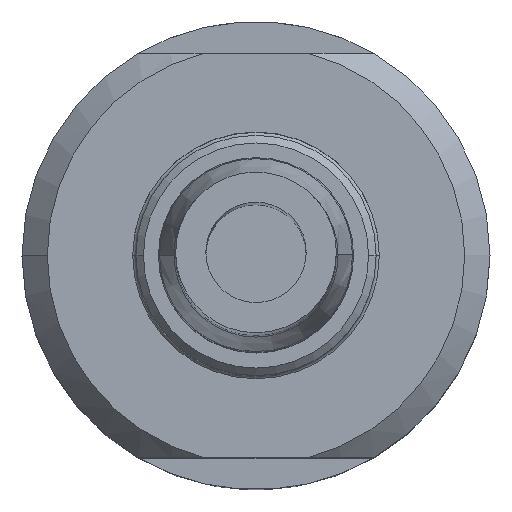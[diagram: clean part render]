
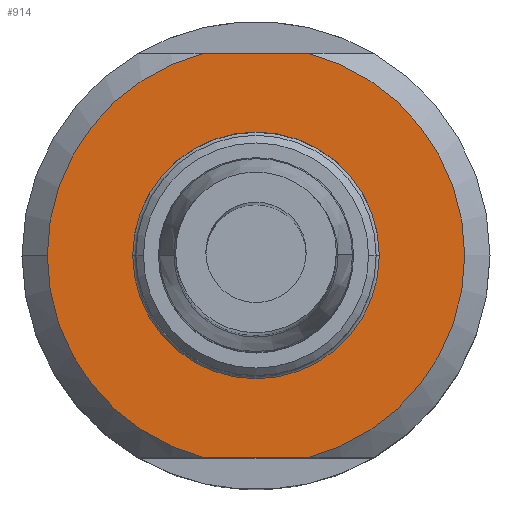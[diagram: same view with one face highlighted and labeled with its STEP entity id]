
A CAD part, top view. The second image highlights one B-rep face of the part: STEP entity #914.
In plain terms, the highlighted planar face has unit normal (0, 0, 1).
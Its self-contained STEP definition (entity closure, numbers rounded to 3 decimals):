
#59 = DIRECTION ( 'NONE',  ( -1., 0., 0. ) ) ;
#72 = LINE ( 'NONE', #1087, #2072 ) ;
#161 = CIRCLE ( 'NONE', #1657, 4.875 ) ;
#210 = DIRECTION ( 'NONE',  ( 0., 0., 1. ) ) ;
#270 = VERTEX_POINT ( 'NONE', #2716 ) ;
#350 = DIRECTION ( 'NONE',  ( 0., 0., -1. ) ) ;
#450 = CARTESIAN_POINT ( 'NONE',  ( -4.875, 0., 20.3 ) ) ;
#475 = EDGE_LOOP ( 'NONE', ( #3002, #674 ) ) ;
#502 = CARTESIAN_POINT ( 'NONE',  ( 0., 0., 20.3 ) ) ;
#652 = DIRECTION ( 'NONE',  ( -1., 0., 0. ) ) ;
#655 = CARTESIAN_POINT ( 'NONE',  ( 0., 8.25, 20.3 ) ) ;
#674 = ORIENTED_EDGE ( 'NONE', *, *, #1118, .T. ) ;
#792 = DIRECTION ( 'NONE',  ( -1., 0., 0. ) ) ;
#914 = ADVANCED_FACE ( 'NONE', ( #1005, #4221 ), #3478, .T. ) ;
#985 = EDGE_CURVE ( 'NONE', #1441, #3596, #3257, .T. ) ;
#1005 = FACE_BOUND ( 'NONE', #475, .T. ) ;
#1052 = CARTESIAN_POINT ( 'NONE',  ( 0., 0., 20.3 ) ) ;
#1087 = CARTESIAN_POINT ( 'NONE',  ( -23.067, -8., 20.3 ) ) ;
#1118 = EDGE_CURVE ( 'NONE', #1518, #4179, #161, .T. ) ;
#1170 = AXIS2_PLACEMENT_3D ( 'NONE', #1535, #4410, #59 ) ;
#1182 = AXIS2_PLACEMENT_3D ( 'NONE', #1052, #350, #2128 ) ;
#1210 = DIRECTION ( 'NONE',  ( -1., 0., 0. ) ) ;
#1441 = VERTEX_POINT ( 'NONE', #3595 ) ;
#1500 = LINE ( 'NONE', #3038, #3904 ) ;
#1518 = VERTEX_POINT ( 'NONE', #2487 ) ;
#1535 = CARTESIAN_POINT ( 'NONE',  ( 0., 0., 20.3 ) ) ;
#1657 = AXIS2_PLACEMENT_3D ( 'NONE', #4500, #3735, #1210 ) ;
#1740 = DIRECTION ( 'NONE',  ( 0., 0., -1. ) ) ;
#1743 = DIRECTION ( 'NONE',  ( 1., 0., 0. ) ) ;
#2072 = VECTOR ( 'NONE', #3346, 1000. ) ;
#2128 = DIRECTION ( 'NONE',  ( -1., 0., 0. ) ) ;
#2341 = EDGE_CURVE ( 'NONE', #2598, #270, #72, .T. ) ;
#2487 = CARTESIAN_POINT ( 'NONE',  ( 4.875, 0., 20.3 ) ) ;
#2494 = VERTEX_POINT ( 'NONE', #3291 ) ;
#2598 = VERTEX_POINT ( 'NONE', #3341 ) ;
#2705 = CIRCLE ( 'NONE', #3641, 8.25 ) ;
#2716 = CARTESIAN_POINT ( 'NONE',  ( 2.016, -8., 20.3 ) ) ;
#2766 = ORIENTED_EDGE ( 'NONE', *, *, #3675, .F. ) ;
#2908 = CIRCLE ( 'NONE', #2980, 4.875 ) ;
#2920 = CARTESIAN_POINT ( 'NONE',  ( -2.016, 8., 20.3 ) ) ;
#2980 = AXIS2_PLACEMENT_3D ( 'NONE', #502, #3714, #4139 ) ;
#3002 = ORIENTED_EDGE ( 'NONE', *, *, #4459, .T. ) ;
#3038 = CARTESIAN_POINT ( 'NONE',  ( -23.067, 8., 20.3 ) ) ;
#3041 = ORIENTED_EDGE ( 'NONE', *, *, #985, .F. ) ;
#3212 = ORIENTED_EDGE ( 'NONE', *, *, #3323, .T. ) ;
#3249 = CIRCLE ( 'NONE', #1170, 8.25 ) ;
#3257 = CIRCLE ( 'NONE', #1182, 8.25 ) ;
#3291 = CARTESIAN_POINT ( 'NONE',  ( 2.016, 8., 20.3 ) ) ;
#3323 = EDGE_CURVE ( 'NONE', #2494, #3596, #1500, .T. ) ;
#3341 = CARTESIAN_POINT ( 'NONE',  ( -2.016, -8., 20.3 ) ) ;
#3346 = DIRECTION ( 'NONE',  ( 1., 0., 0. ) ) ;
#3478 = PLANE ( 'NONE',  #3489 ) ;
#3489 = AXIS2_PLACEMENT_3D ( 'NONE', #655, #210, #1743 ) ;
#3534 = EDGE_CURVE ( 'NONE', #2598, #1441, #2705, .T. ) ;
#3595 = CARTESIAN_POINT ( 'NONE',  ( -8.25, 0., 20.3 ) ) ;
#3596 = VERTEX_POINT ( 'NONE', #2920 ) ;
#3635 = EDGE_LOOP ( 'NONE', ( #4634, #3991, #2766, #3212, #3041 ) ) ;
#3641 = AXIS2_PLACEMENT_3D ( 'NONE', #4652, #1740, #652 ) ;
#3675 = EDGE_CURVE ( 'NONE', #2494, #270, #3249, .T. ) ;
#3714 = DIRECTION ( 'NONE',  ( 0., 0., -1. ) ) ;
#3735 = DIRECTION ( 'NONE',  ( 0., 0., -1. ) ) ;
#3904 = VECTOR ( 'NONE', #792, 1000. ) ;
#3991 = ORIENTED_EDGE ( 'NONE', *, *, #2341, .T. ) ;
#4139 = DIRECTION ( 'NONE',  ( -1., 0., 0. ) ) ;
#4179 = VERTEX_POINT ( 'NONE', #450 ) ;
#4221 = FACE_OUTER_BOUND ( 'NONE', #3635, .T. ) ;
#4410 = DIRECTION ( 'NONE',  ( 0., 0., -1. ) ) ;
#4459 = EDGE_CURVE ( 'NONE', #4179, #1518, #2908, .T. ) ;
#4500 = CARTESIAN_POINT ( 'NONE',  ( 0., 0., 20.3 ) ) ;
#4634 = ORIENTED_EDGE ( 'NONE', *, *, #3534, .F. ) ;
#4652 = CARTESIAN_POINT ( 'NONE',  ( 0., 0., 20.3 ) ) ;
